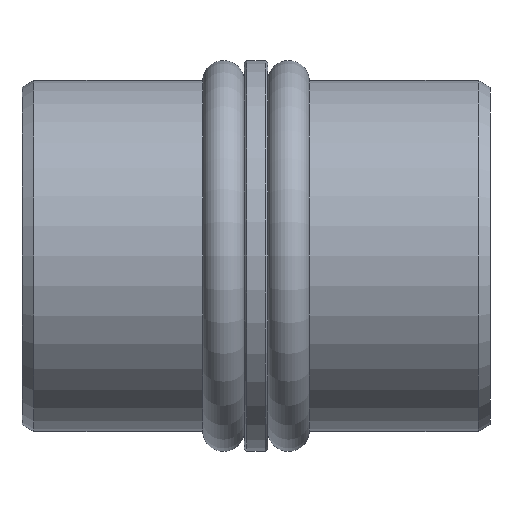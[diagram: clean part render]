
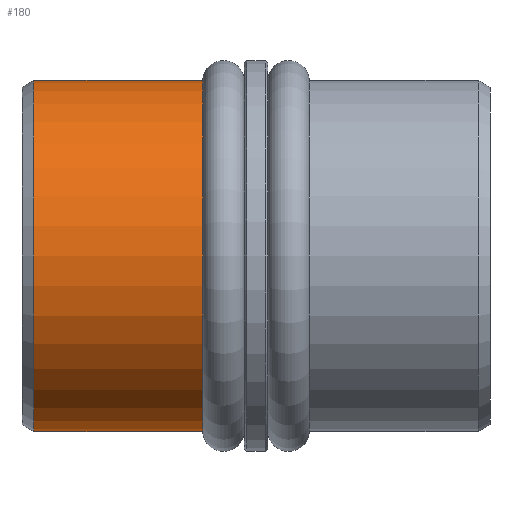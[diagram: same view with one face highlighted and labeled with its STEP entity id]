
A CAD part, left-side view. The second image highlights one B-rep face of the part: STEP entity #180.
In plain terms, the highlighted cylindrical face has radius 7.5 mm (diameter 15 mm), a full revolution.
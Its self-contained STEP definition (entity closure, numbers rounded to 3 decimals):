
#33=FACE_BOUND('',#69,.T.);
#49=FACE_OUTER_BOUND('',#68,.T.);
#68=EDGE_LOOP('',(#148));
#69=EDGE_LOOP('',(#149));
#96=CIRCLE('',#203,7.5);
#97=CIRCLE('',#205,7.5);
#112=VERTEX_POINT('',#306);
#113=VERTEX_POINT('',#309);
#128=EDGE_CURVE('',#112,#112,#96,.T.);
#129=EDGE_CURVE('',#113,#113,#97,.T.);
#148=ORIENTED_EDGE('',*,*,#129,.F.);
#149=ORIENTED_EDGE('',*,*,#128,.T.);
#173=CYLINDRICAL_SURFACE('',#204,7.5);
#180=ADVANCED_FACE('',(#49,#33),#173,.T.);
#203=AXIS2_PLACEMENT_3D('',#307,#245,#246);
#204=AXIS2_PLACEMENT_3D('',#308,#247,#248);
#205=AXIS2_PLACEMENT_3D('',#310,#249,#250);
#245=DIRECTION('center_axis',(0.,1.,0.));
#246=DIRECTION('ref_axis',(-1.,0.,0.));
#247=DIRECTION('center_axis',(0.,1.,0.));
#248=DIRECTION('ref_axis',(-1.,0.,0.));
#249=DIRECTION('center_axis',(0.,1.,0.));
#250=DIRECTION('ref_axis',(-1.,0.,0.));
#306=CARTESIAN_POINT('',(-7.5,2.279,0.));
#307=CARTESIAN_POINT('Origin',(0.,2.279,0.));
#308=CARTESIAN_POINT('Origin',(0.,5.89,0.));
#309=CARTESIAN_POINT('',(-7.5,9.5,0.));
#310=CARTESIAN_POINT('Origin',(0.,9.5,0.));
